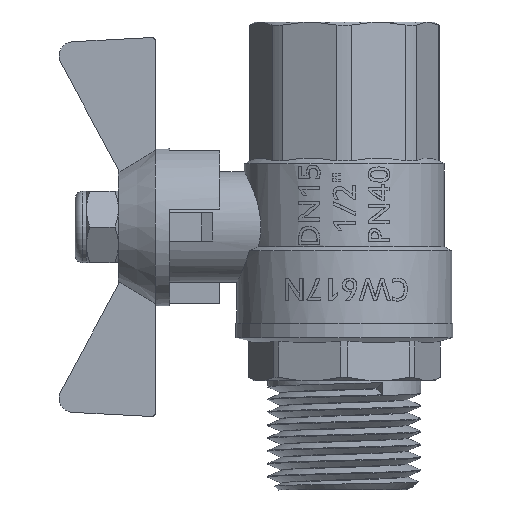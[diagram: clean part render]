
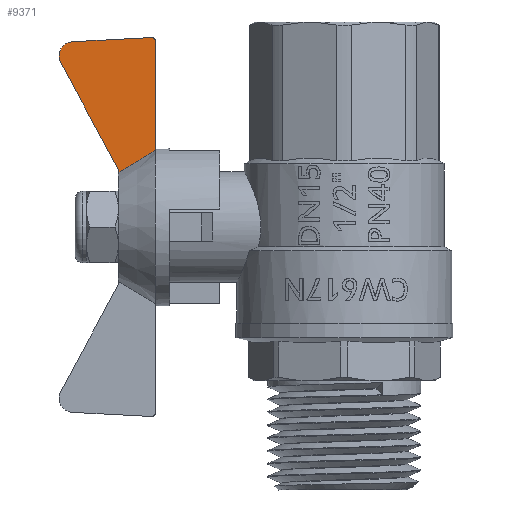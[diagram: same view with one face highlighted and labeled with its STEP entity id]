
A CAD part, left-side view. The second image highlights one B-rep face of the part: STEP entity #9371.
In plain terms, the highlighted planar face has unit normal (-1, 0, 0).
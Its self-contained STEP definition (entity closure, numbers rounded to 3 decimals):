
#82=(
BOUNDED_CURVE()
B_SPLINE_CURVE(2,(#26840,#26841,#26842),.UNSPECIFIED.,.F.,.F.)
B_SPLINE_CURVE_WITH_KNOTS((3,3),(0.,0.605),.UNSPECIFIED.)
CURVE()
GEOMETRIC_REPRESENTATION_ITEM()
RATIONAL_B_SPLINE_CURVE((1.,1.014,1.))
REPRESENTATION_ITEM('')
);
#840=PLANE('',#9989);
#1119=CIRCLE('',#9990,0.5);
#1120=CIRCLE('',#9991,2.);
#1682=FACE_OUTER_BOUND('',#2240,.T.);
#2240=EDGE_LOOP('',(#8559,#8560,#8561,#8562,#8563,#8564,#8565));
#2766=LINE('',#26322,#3370);
#2867=LINE('',#26844,#3471);
#2868=LINE('',#26848,#3472);
#2869=LINE('',#26851,#3473);
#3370=VECTOR('',#11389,10.);
#3471=VECTOR('',#11766,10.);
#3472=VECTOR('',#11769,10.);
#3473=VECTOR('',#11772,10.);
#4584=VERTEX_POINT('',#26319);
#4585=VERTEX_POINT('',#26321);
#4727=VERTEX_POINT('',#26839);
#4728=VERTEX_POINT('',#26843);
#4729=VERTEX_POINT('',#26845);
#4730=VERTEX_POINT('',#26847);
#4731=VERTEX_POINT('',#26849);
#5825=EDGE_CURVE('',#4585,#4584,#2766,.T.);
#6036=EDGE_CURVE('',#4727,#4584,#82,.T.);
#6037=EDGE_CURVE('',#4727,#4728,#2867,.T.);
#6038=EDGE_CURVE('',#4728,#4729,#1119,.T.);
#6039=EDGE_CURVE('',#4729,#4730,#2868,.T.);
#6040=EDGE_CURVE('',#4730,#4731,#1120,.T.);
#6041=EDGE_CURVE('',#4731,#4585,#2869,.T.);
#8559=ORIENTED_EDGE('',*,*,#6036,.F.);
#8560=ORIENTED_EDGE('',*,*,#6037,.T.);
#8561=ORIENTED_EDGE('',*,*,#6038,.T.);
#8562=ORIENTED_EDGE('',*,*,#6039,.T.);
#8563=ORIENTED_EDGE('',*,*,#6040,.T.);
#8564=ORIENTED_EDGE('',*,*,#6041,.T.);
#8565=ORIENTED_EDGE('',*,*,#5825,.T.);
#9371=ADVANCED_FACE('',(#1682),#840,.F.);
#9989=AXIS2_PLACEMENT_3D('',#26838,#11764,#11765);
#9990=AXIS2_PLACEMENT_3D('',#26846,#11767,#11768);
#9991=AXIS2_PLACEMENT_3D('',#26850,#11770,#11771);
#11389=DIRECTION('',(0.,0.,-1.));
#11764=DIRECTION('center_axis',(1.,0.,0.));
#11765=DIRECTION('ref_axis',(0.,0.,-1.));
#11766=DIRECTION('',(0.,0.,1.));
#11767=DIRECTION('center_axis',(-1.,0.,0.));
#11768=DIRECTION('ref_axis',(0.,0.047,0.999));
#11769=DIRECTION('',(0.,0.999,-0.052));
#11770=DIRECTION('center_axis',(-1.,0.,0.));
#11771=DIRECTION('ref_axis',(0.,0.88,-0.475));
#11772=DIRECTION('',(0.,-0.475,-0.88));
#26319=CARTESIAN_POINT('',(-2.5,31.573,7.599));
#26321=CARTESIAN_POINT('',(-2.5,31.573,8.068));
#26322=CARTESIAN_POINT('',(-2.5,31.573,-8.068));
#26838=CARTESIAN_POINT('Origin',(-2.5,31.011,0.));
#26839=CARTESIAN_POINT('',(-2.5,26.388,10.712));
#26840=CARTESIAN_POINT('Ctrl Pts',(-2.5,26.388,10.712));
#26841=CARTESIAN_POINT('Ctrl Pts',(-2.5,29.421,8.91));
#26842=CARTESIAN_POINT('Ctrl Pts',(-2.5,31.573,7.599));
#26843=CARTESIAN_POINT('',(-2.5,26.388,25.976));
#26844=CARTESIAN_POINT('',(-2.5,26.388,25.976));
#26845=CARTESIAN_POINT('',(-2.5,26.911,26.475));
#26846=CARTESIAN_POINT('Origin',(-2.5,26.888,25.976));
#26847=CARTESIAN_POINT('',(-2.5,37.942,25.897));
#26848=CARTESIAN_POINT('',(-2.5,37.942,25.897));
#26849=CARTESIAN_POINT('',(-2.5,39.609,22.949));
#26850=CARTESIAN_POINT('Origin',(-2.5,37.849,23.899));
#26851=CARTESIAN_POINT('',(-2.5,31.573,8.068));
